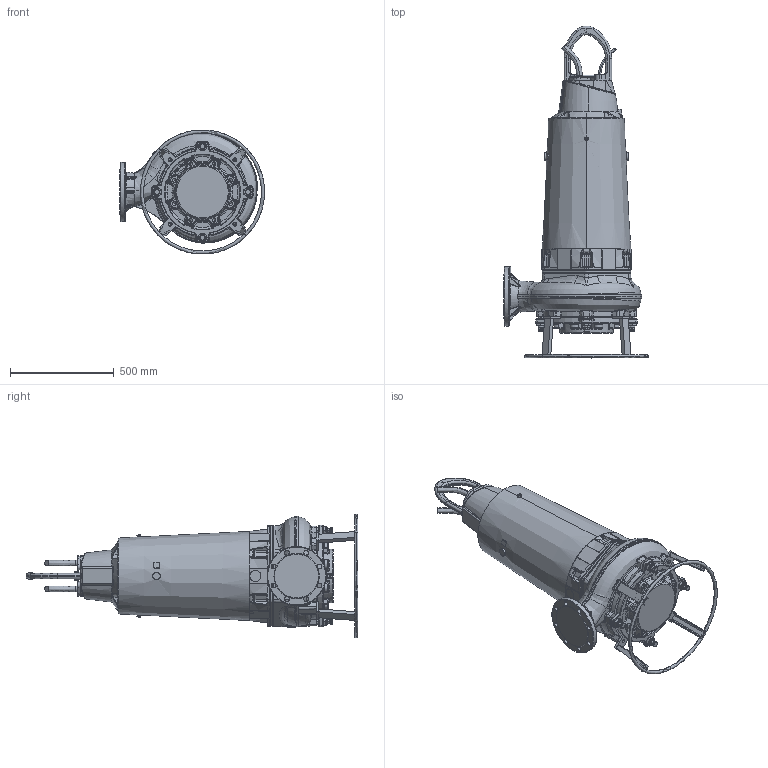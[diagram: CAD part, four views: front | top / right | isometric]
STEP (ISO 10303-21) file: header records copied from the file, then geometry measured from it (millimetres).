
FILE_DESCRIPTION (( 'STEP AP214' ), '1' );
FILE_NAME ('PE4_XFP155J-CB2_WET T_A_NG2.STEP', '2017-01-23T12:53:04', ( '' ), ( '' ), 'SwSTEP 2.0', 'SolidWorks 2017', '' );
FILE_SCHEMA (( 'AUTOMOTIVE_DESIGN' ));
Length unit declared in the file: millimetre
Products named in the file (1): PE4_XFP155J-CB2_WET T_A_NG2
Bounding box: 698.94 x 1600.9 x 597.89 mm (x, y, z)
Volume: 157451753 mm3; surface area: 2589439.6 mm2
Topology: 3 solids, 17 shells, 2698 faces, 6787 edges, 4070 vertices
Faces by surface type: bspline 780, plane 732, cylinder 541, cone 354, torus 233, sphere 58
Entity records: 182961 total; most frequent: CARTESIAN_POINT 95458, ORIENTED_EDGE 13398, DIRECTION 10487, EDGE_CURVE 6699, AXIS2_PLACEMENT_3D 4249, VERTEX_POINT 4070, EDGE_LOOP 2817, UNCERTAINTY_MEASURE_WITH_UNIT 2703
